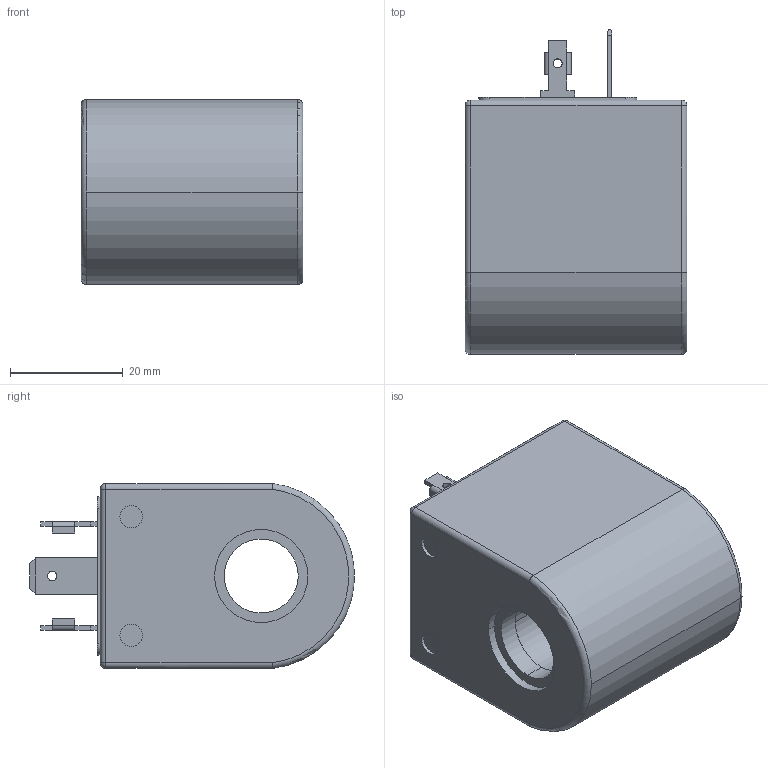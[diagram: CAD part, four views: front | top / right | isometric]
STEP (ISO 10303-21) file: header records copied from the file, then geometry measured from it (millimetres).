
FILE_DESCRIPTION (( 'STEP AP214' ), '1' );
FILE_NAME ('KDE33_13x39.STEP', '2016-06-08T13:40:46', ( '' ), ( '' ), 'SwSTEP 2.0', 'SolidWorks 2014', '' );
FILE_SCHEMA (( 'AUTOMOTIVE_DESIGN' ));
Length unit declared in the file: millimetre
Products named in the file (2): KDE33_13x39
Bounding box: 39.3 x 57.5 x 32.75 mm (x, y, z)
Volume: 48328.2 mm3; surface area: 10027 mm2
Topology: 1 solids, 1 shells, 118 faces, 281 edges, 170 vertices
Faces by surface type: plane 67, cylinder 40, cone 4, sphere 4, torus 3
Entity records: 3414 total; most frequent: CARTESIAN_POINT 601, DIRECTION 593, ORIENTED_EDGE 550, EDGE_CURVE 275, AXIS2_PLACEMENT_3D 202, VECTOR 189, LINE 189, VERTEX_POINT 170
